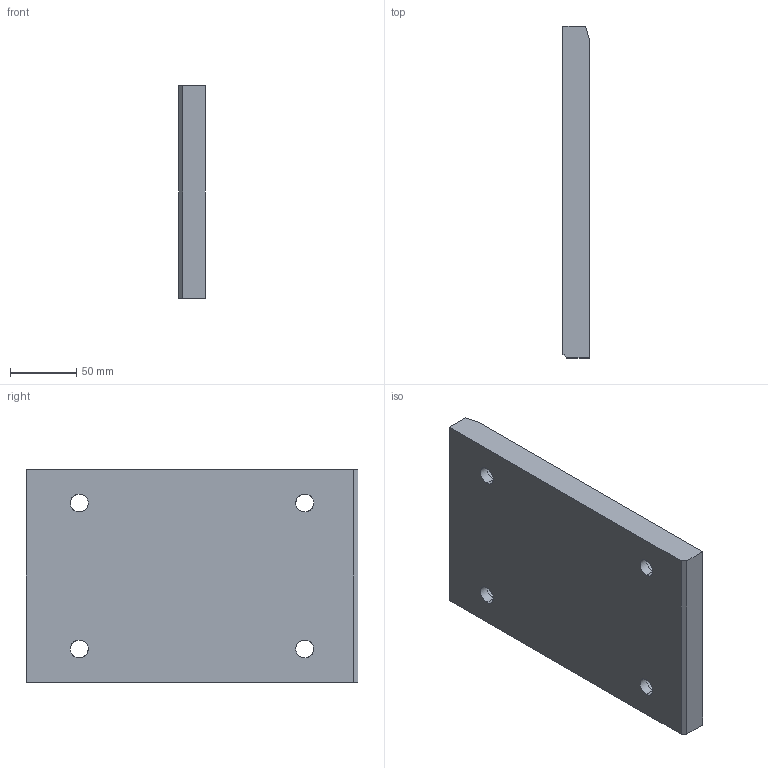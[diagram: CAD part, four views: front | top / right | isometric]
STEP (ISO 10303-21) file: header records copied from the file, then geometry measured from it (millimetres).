
FILE_DESCRIPTION(('CATIA V5 STEP Exchange'),'2;1');
FILE_NAME('C:\Users\borellobunino\Desktop\3D X SITO CF\A915\GSB_OILLESS_G22501160250\STEP-2.03\A915-160X250.stp','2019-07-14T14:21:45+00:00',('none'),('none'),'CATIA Version 5 Release 20 GA (IN-10)','CATIA V5 STEP AP203','none');
FILE_SCHEMA(('CONFIG_CONTROL_DESIGN'));
Length unit declared in the file: millimetre
Products named in the file (1): A915-160X250
Bounding box: 20 x 250 x 160 mm (x, y, z)
Volume: 776271.3 mm3; surface area: 98711.6 mm2
Topology: 1 solids, 1 shells, 37 faces, 125 edges, 94 vertices
Faces by surface type: cylinder 17, plane 12, torus 8
Entity records: 1817 total; most frequent: CARTESIAN_POINT 705, ORIENTED_EDGE 250, DIRECTION 167, EDGE_CURVE 125, AXIS2_PLACEMENT_3D 96, VERTEX_POINT 94, CIRCLE 58, EDGE_LOOP 49
